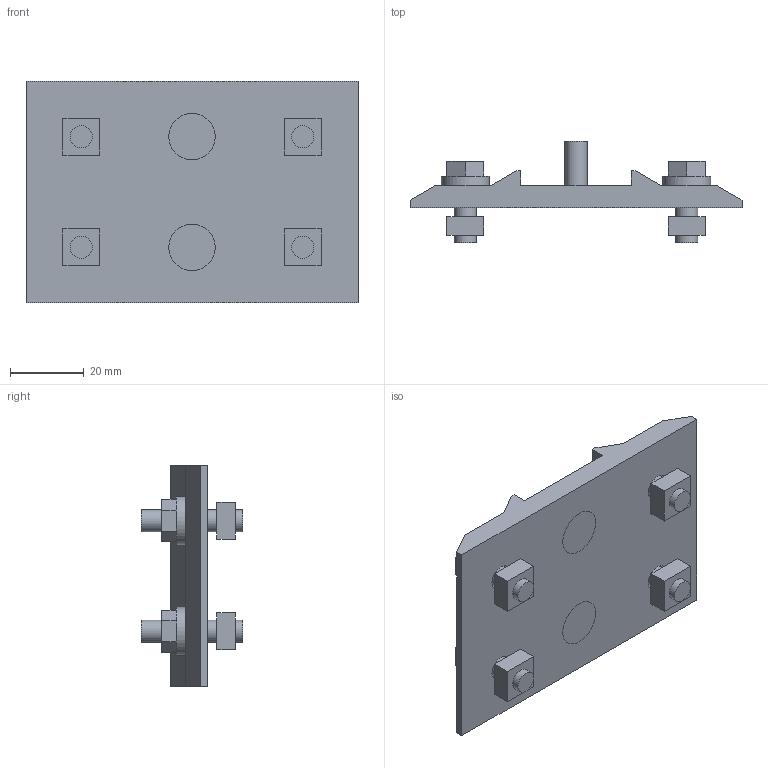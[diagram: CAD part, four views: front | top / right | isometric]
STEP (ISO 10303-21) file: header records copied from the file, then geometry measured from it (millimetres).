
FILE_DESCRIPTION((''),'2;1');
FILE_NAME('C:\Documents and Settings\古川典政\My Documents\Inventor\HP用\MasterData\BRACKET\M6\ABJF-3060-6.stp','2008-07-31T09:14:11',(''),(''),'Autodesk Inventor 2008','Autodesk Inventor 2008','');
FILE_SCHEMA(('CONFIG_CONTROL_DESIGN'));
Length unit declared in the file: millimetre
Products named in the file (12): ABJF-3060-6; ABJF-3060-61; ABJF-3060-62; ABJF-3060-63; ABJF-3060-64; ABJF-3060-65; ABJF-3060-66; ABJF-3060-67; ABJF-3060-68; ABJF-3060-69; ABJF-3060-610; ABJF-3060-611
Assembly tree (11 placements, depth 2):
  ABJF-3060-6
    ABJF-3060-61
    ABJF-3060-62
    ABJF-3060-63
    ABJF-3060-64
    ABJF-3060-65
    ABJF-3060-66
    ABJF-3060-67
    ABJF-3060-68
    ABJF-3060-69
    ABJF-3060-610
    ABJF-3060-611
Bounding box: 90 x 27.5 x 60 mm (x, y, z)
Volume: 38437.2 mm3; surface area: 19615.2 mm2
Topology: 11 solids, 11 shells, 116 faces, 256 edges, 174 vertices
Faces by surface type: plane 88, cylinder 16, bspline 10, cone 2
Full cylindrical faces by diameter (mm): 6 x6, 6.4 x4, 7 x2, 13 x4
Entity records: 3429 total; most frequent: CARTESIAN_POINT 683, DIRECTION 524, ORIENTED_EDGE 428, EDGE_CURVE 214, AXIS2_PLACEMENT_3D 181, EDGE_LOOP 176, VECTOR 162, LINE 162
